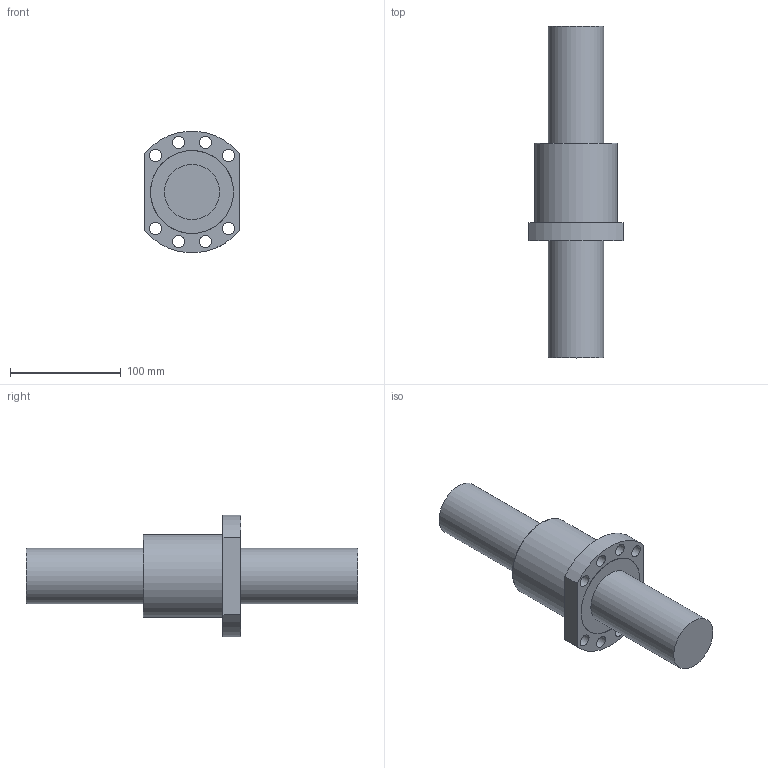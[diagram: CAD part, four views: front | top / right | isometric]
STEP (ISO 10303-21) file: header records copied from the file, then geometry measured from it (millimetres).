
FILE_DESCRIPTION(/* description */ (''),/* implementation_level */ '2;1');
FILE_NAME(/* name */ '5010.stp',/* time_stamp */ '2014-07-11T13:23:43+08:00',/* author */ (''),/* organization */ (''),/* preprocessor_version */ 'ST-DEVELOPER v11',/* originating_system */ 'SIEMENS UGS NX 6.0',/* authorisation */ '');
FILE_SCHEMA (('CONFIG_CONTROL_DESIGN'));
Length unit declared in the file: millimetre
Products named in the file (1): kcc5E5Cj7tt
Bounding box: 85 x 300 x 109.65 mm (x, y, z)
Volume: 854166.3 mm3; surface area: 115385.5 mm2
Topology: 4 solids, 4 shells, 34 faces, 83 edges, 58 vertices
Faces by surface type: cylinder 20, plane 13, torus 1
Full cylindrical faces by diameter (mm): 6.5 x1, 11 x8, 50 x4, 64 x2, 75 x3
Entity records: 1066 total; most frequent: CARTESIAN_POINT 250, DIRECTION 158, ORIENTED_EDGE 104, EDGE_LOOP 78, AXIS2_PLACEMENT_3D 74, FACE_BOUND 72, EDGE_CURVE 52, VERTEX_POINT 46
